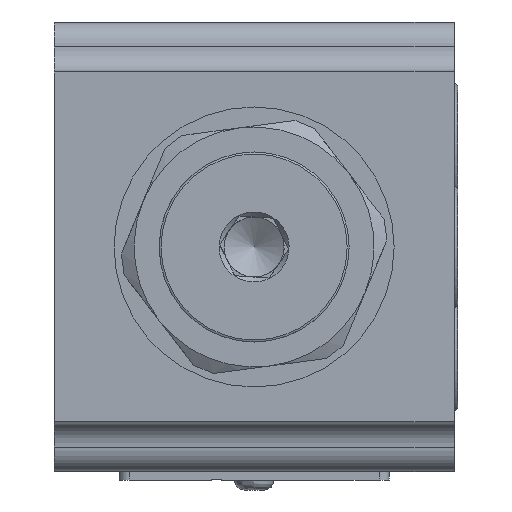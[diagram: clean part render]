
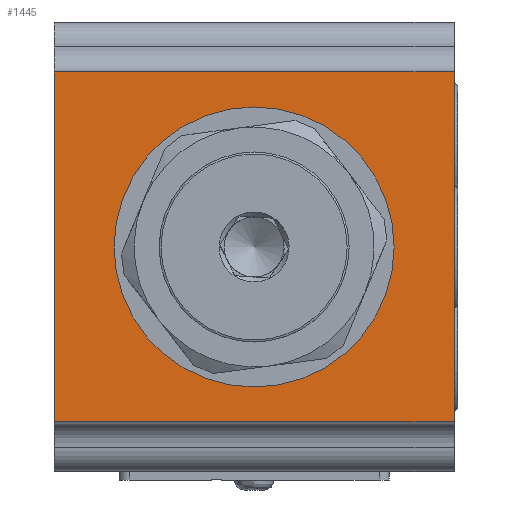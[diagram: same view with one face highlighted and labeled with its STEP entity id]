
A CAD part, left-side view. The second image highlights one B-rep face of the part: STEP entity #1445.
In plain terms, the highlighted planar face has unit normal (-1, 0, 0).
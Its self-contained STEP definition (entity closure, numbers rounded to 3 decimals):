
#309=LINE('',#6366,#532);
#312=LINE('',#6373,#535);
#322=LINE('',#6693,#545);
#331=LINE('',#6747,#554);
#532=VECTOR('',#5166,1.);
#535=VECTOR('',#5171,1.);
#545=VECTOR('',#5245,1.);
#554=VECTOR('',#5274,1.);
#1213=PLANE('',#4772);
#1445=ADVANCED_FACE('',(#1776,#1777),#1213,.T.);
#1776=FACE_BOUND('',#2029,.T.);
#1777=FACE_BOUND('',#2030,.T.);
#2029=EDGE_LOOP('',(#2539));
#2030=EDGE_LOOP('',(#2540,#2541,#2542,#2543));
#2539=ORIENTED_EDGE('',*,*,#4047,.T.);
#2540=ORIENTED_EDGE('',*,*,#3958,.F.);
#2541=ORIENTED_EDGE('',*,*,#4014,.T.);
#2542=ORIENTED_EDGE('',*,*,#3961,.F.);
#2543=ORIENTED_EDGE('',*,*,#4033,.F.);
#3534=VERTEX_POINT('',#6361);
#3536=VERTEX_POINT('',#6365);
#3539=VERTEX_POINT('',#6372);
#3540=VERTEX_POINT('',#6374);
#3607=VERTEX_POINT('',#6775);
#3958=EDGE_CURVE('',#3536,#3534,#309,.T.);
#3961=EDGE_CURVE('',#3539,#3540,#312,.T.);
#4014=EDGE_CURVE('',#3536,#3540,#322,.T.);
#4033=EDGE_CURVE('',#3534,#3539,#331,.T.);
#4047=EDGE_CURVE('',#3607,#3607,#4560,.T.);
#4560=CIRCLE('',#4771,14.);
#4771=AXIS2_PLACEMENT_3D('',#6774,#5315,#5316);
#4772=AXIS2_PLACEMENT_3D('',#6776,#5317,#5318);
#5166=DIRECTION('',(0.,-1.,0.));
#5171=DIRECTION('',(0.,1.,0.));
#5245=DIRECTION('',(0.,0.,-1.));
#5274=DIRECTION('',(0.,0.,-1.));
#5315=DIRECTION('',(1.,0.,0.));
#5316=DIRECTION('',(0.,0.,-1.));
#5317=DIRECTION('',(-1.,0.,0.));
#5318=DIRECTION('',(0.,0.,1.));
#6361=CARTESIAN_POINT('',(136.795,84.164,303.5));
#6365=CARTESIAN_POINT('',(136.795,124.164,303.5));
#6366=CARTESIAN_POINT('',(136.795,127.164,303.5));
#6372=CARTESIAN_POINT('',(136.795,84.164,268.5));
#6373=CARTESIAN_POINT('',(136.795,127.164,268.5));
#6374=CARTESIAN_POINT('',(136.795,124.164,268.5));
#6693=CARTESIAN_POINT('',(136.795,124.164,306.));
#6747=CARTESIAN_POINT('',(136.795,84.164,306.));
#6774=CARTESIAN_POINT('',(136.795,104.164,286.));
#6775=CARTESIAN_POINT('',(136.795,104.164,272.));
#6776=CARTESIAN_POINT('',(136.795,104.164,286.));
